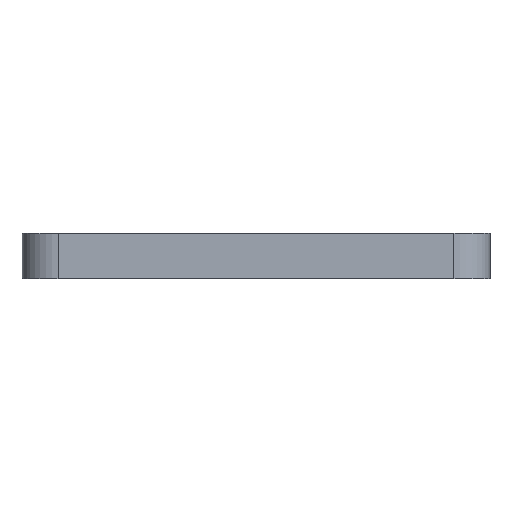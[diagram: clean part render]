
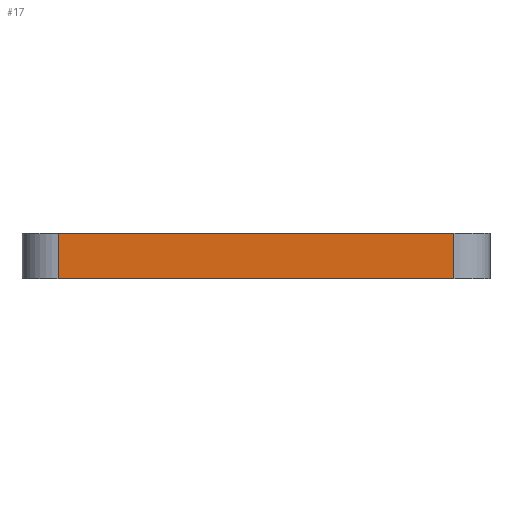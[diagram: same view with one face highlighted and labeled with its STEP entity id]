
A CAD part, left-side view. The second image highlights one B-rep face of the part: STEP entity #17.
In plain terms, the highlighted planar face has unit normal (-1, 0, 0).
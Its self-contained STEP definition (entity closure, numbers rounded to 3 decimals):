
#17 = ADVANCED_FACE('',(#18),#32,.F.);
#18 = FACE_BOUND('',#19,.F.);
#19 = EDGE_LOOP('',(#20,#55,#83,#111));
#20 = ORIENTED_EDGE('',*,*,#21,.F.);
#21 = EDGE_CURVE('',#22,#24,#26,.T.);
#22 = VERTEX_POINT('',#23);
#23 = CARTESIAN_POINT('',(-10.54,-12.35,0.5));
#24 = VERTEX_POINT('',#25);
#25 = CARTESIAN_POINT('',(-10.54,-7.95,0.5));
#26 = SURFACE_CURVE('',#27,(#31,#43),.PCURVE_S1.);
#27 = LINE('',#28,#29);
#28 = CARTESIAN_POINT('',(-10.54,-12.75,0.5));
#29 = VECTOR('',#30,1.);
#30 = DIRECTION('',(0.,1.,0.));
#31 = PCURVE('',#32,#37);
#32 = PLANE('',#33);
#33 = AXIS2_PLACEMENT_3D('',#34,#35,#36);
#34 = CARTESIAN_POINT('',(-10.54,-12.75,0.));
#35 = DIRECTION('',(1.,0.,0.));
#36 = DIRECTION('',(0.,0.,1.));
#37 = DEFINITIONAL_REPRESENTATION('',(#38),#42);
#38 = LINE('',#39,#40);
#39 = CARTESIAN_POINT('',(0.5,0.));
#40 = VECTOR('',#41,1.);
#41 = DIRECTION('',(0.,-1.));
#42 = ( GEOMETRIC_REPRESENTATION_CONTEXT(2) 
PARAMETRIC_REPRESENTATION_CONTEXT() REPRESENTATION_CONTEXT('2D SPACE',''
  ) );
#43 = PCURVE('',#44,#49);
#44 = PLANE('',#45);
#45 = AXIS2_PLACEMENT_3D('',#46,#47,#48);
#46 = CARTESIAN_POINT('',(-10.54,-12.75,0.5));
#47 = DIRECTION('',(0.,0.,1.));
#48 = DIRECTION('',(1.,0.,0.));
#49 = DEFINITIONAL_REPRESENTATION('',(#50),#54);
#50 = LINE('',#51,#52);
#51 = CARTESIAN_POINT('',(0.,0.));
#52 = VECTOR('',#53,1.);
#53 = DIRECTION('',(0.,1.));
#54 = ( GEOMETRIC_REPRESENTATION_CONTEXT(2) 
PARAMETRIC_REPRESENTATION_CONTEXT() REPRESENTATION_CONTEXT('2D SPACE',''
  ) );
#55 = ORIENTED_EDGE('',*,*,#56,.F.);
#56 = EDGE_CURVE('',#57,#22,#59,.T.);
#57 = VERTEX_POINT('',#58);
#58 = CARTESIAN_POINT('',(-10.54,-12.35,0.));
#59 = SURFACE_CURVE('',#60,(#64,#71),.PCURVE_S1.);
#60 = LINE('',#61,#62);
#61 = CARTESIAN_POINT('',(-10.54,-12.35,0.));
#62 = VECTOR('',#63,1.);
#63 = DIRECTION('',(0.,0.,1.));
#64 = PCURVE('',#32,#65);
#65 = DEFINITIONAL_REPRESENTATION('',(#66),#70);
#66 = LINE('',#67,#68);
#67 = CARTESIAN_POINT('',(0.,-0.4));
#68 = VECTOR('',#69,1.);
#69 = DIRECTION('',(1.,0.));
#70 = ( GEOMETRIC_REPRESENTATION_CONTEXT(2) 
PARAMETRIC_REPRESENTATION_CONTEXT() REPRESENTATION_CONTEXT('2D SPACE',''
  ) );
#71 = PCURVE('',#72,#77);
#72 = CYLINDRICAL_SURFACE('',#73,0.4);
#73 = AXIS2_PLACEMENT_3D('',#74,#75,#76);
#74 = CARTESIAN_POINT('',(-10.14,-12.35,0.));
#75 = DIRECTION('',(0.,0.,1.));
#76 = DIRECTION('',(-1.,-0.,0.));
#77 = DEFINITIONAL_REPRESENTATION('',(#78),#82);
#78 = LINE('',#79,#80);
#79 = CARTESIAN_POINT('',(0.,0.));
#80 = VECTOR('',#81,1.);
#81 = DIRECTION('',(0.,1.));
#82 = ( GEOMETRIC_REPRESENTATION_CONTEXT(2) 
PARAMETRIC_REPRESENTATION_CONTEXT() REPRESENTATION_CONTEXT('2D SPACE',''
  ) );
#83 = ORIENTED_EDGE('',*,*,#84,.T.);
#84 = EDGE_CURVE('',#57,#85,#87,.T.);
#85 = VERTEX_POINT('',#86);
#86 = CARTESIAN_POINT('',(-10.54,-7.95,0.));
#87 = SURFACE_CURVE('',#88,(#92,#99),.PCURVE_S1.);
#88 = LINE('',#89,#90);
#89 = CARTESIAN_POINT('',(-10.54,-12.75,0.));
#90 = VECTOR('',#91,1.);
#91 = DIRECTION('',(0.,1.,0.));
#92 = PCURVE('',#32,#93);
#93 = DEFINITIONAL_REPRESENTATION('',(#94),#98);
#94 = LINE('',#95,#96);
#95 = CARTESIAN_POINT('',(0.,0.));
#96 = VECTOR('',#97,1.);
#97 = DIRECTION('',(0.,-1.));
#98 = ( GEOMETRIC_REPRESENTATION_CONTEXT(2) 
PARAMETRIC_REPRESENTATION_CONTEXT() REPRESENTATION_CONTEXT('2D SPACE',''
  ) );
#99 = PCURVE('',#100,#105);
#100 = PLANE('',#101);
#101 = AXIS2_PLACEMENT_3D('',#102,#103,#104);
#102 = CARTESIAN_POINT('',(-10.54,-12.75,0.));
#103 = DIRECTION('',(0.,0.,1.));
#104 = DIRECTION('',(1.,0.,0.));
#105 = DEFINITIONAL_REPRESENTATION('',(#106),#110);
#106 = LINE('',#107,#108);
#107 = CARTESIAN_POINT('',(0.,0.));
#108 = VECTOR('',#109,1.);
#109 = DIRECTION('',(0.,1.));
#110 = ( GEOMETRIC_REPRESENTATION_CONTEXT(2) 
PARAMETRIC_REPRESENTATION_CONTEXT() REPRESENTATION_CONTEXT('2D SPACE',''
  ) );
#111 = ORIENTED_EDGE('',*,*,#112,.T.);
#112 = EDGE_CURVE('',#85,#24,#113,.T.);
#113 = SURFACE_CURVE('',#114,(#118,#125),.PCURVE_S1.);
#114 = LINE('',#115,#116);
#115 = CARTESIAN_POINT('',(-10.54,-7.95,0.));
#116 = VECTOR('',#117,1.);
#117 = DIRECTION('',(0.,0.,1.));
#118 = PCURVE('',#32,#119);
#119 = DEFINITIONAL_REPRESENTATION('',(#120),#124);
#120 = LINE('',#121,#122);
#121 = CARTESIAN_POINT('',(0.,-4.8));
#122 = VECTOR('',#123,1.);
#123 = DIRECTION('',(1.,0.));
#124 = ( GEOMETRIC_REPRESENTATION_CONTEXT(2) 
PARAMETRIC_REPRESENTATION_CONTEXT() REPRESENTATION_CONTEXT('2D SPACE',''
  ) );
#125 = PCURVE('',#126,#131);
#126 = CYLINDRICAL_SURFACE('',#127,0.4);
#127 = AXIS2_PLACEMENT_3D('',#128,#129,#130);
#128 = CARTESIAN_POINT('',(-10.14,-7.95,0.));
#129 = DIRECTION('',(0.,0.,1.));
#130 = DIRECTION('',(-1.,-0.,0.));
#131 = DEFINITIONAL_REPRESENTATION('',(#132),#136);
#132 = LINE('',#133,#134);
#133 = CARTESIAN_POINT('',(-0.,0.));
#134 = VECTOR('',#135,1.);
#135 = DIRECTION('',(-0.,1.));
#136 = ( GEOMETRIC_REPRESENTATION_CONTEXT(2) 
PARAMETRIC_REPRESENTATION_CONTEXT() REPRESENTATION_CONTEXT('2D SPACE',''
  ) );
